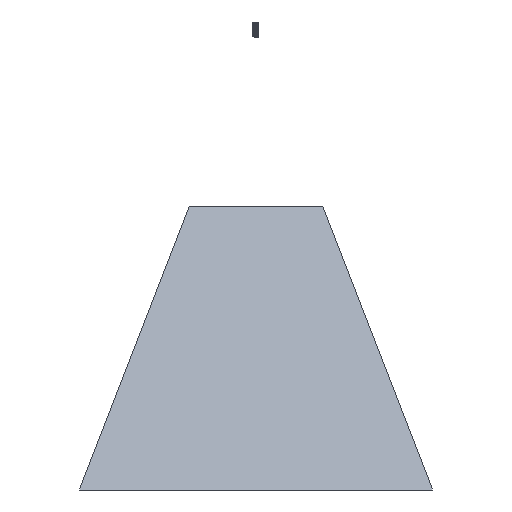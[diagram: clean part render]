
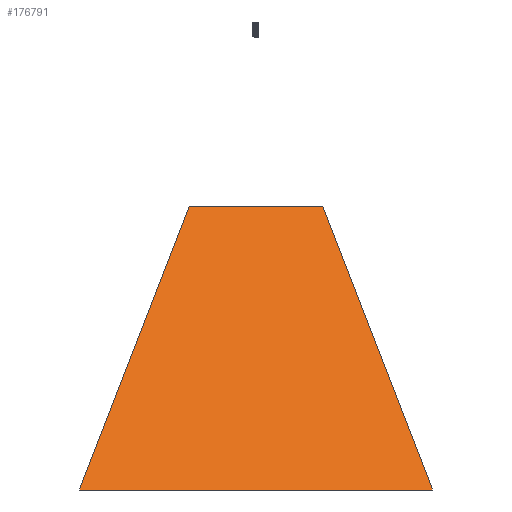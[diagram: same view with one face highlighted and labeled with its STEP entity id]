
A CAD part, left-side view. The second image highlights one B-rep face of the part: STEP entity #176791.
In plain terms, the highlighted planar face has unit normal (-0.812, 0, 0.584).
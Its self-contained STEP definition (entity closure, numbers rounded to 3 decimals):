
#156266=DIRECTION('',(0.,1.,0.));
#156267=VECTOR('',#156266,1177.267);
#156268=CARTESIAN_POINT('',(-896.939,-567.733,
-1557.743));
#156269=LINE('',#156268,#156267);
#156274=DIRECTION('',(0.557,0.3,0.775));
#156275=VECTOR('',#156274,3227.676);
#156276=CARTESIAN_POINT('',(-2694.033,-1536.416,
-4057.743));
#156277=LINE('',#156276,#156275);
#156278=DIRECTION('',(0.557,-0.3,0.775));
#156279=VECTOR('',#156278,3227.676);
#156280=CARTESIAN_POINT('',(-2694.033,1578.216,
-4057.743));
#156281=LINE('',#156280,#156279);
#156294=DIRECTION('',(0.,1.,0.));
#156295=VECTOR('',#156294,3114.631);
#156296=CARTESIAN_POINT('',(-2694.033,-1536.416,
-4057.743));
#156297=LINE('',#156296,#156295);
#159558=CARTESIAN_POINT('',(-2694.033,-1536.416,
-4057.743));
#159559=CARTESIAN_POINT('',(-2694.033,1578.216,
-4057.743));
#159560=VERTEX_POINT('',#159558);
#159561=VERTEX_POINT('',#159559);
#159566=CARTESIAN_POINT('',(-896.939,-567.733,
-1557.743));
#159567=CARTESIAN_POINT('',(-896.939,609.533,
-1557.743));
#159568=VERTEX_POINT('',#159566);
#159569=VERTEX_POINT('',#159567);
#176777=CARTESIAN_POINT('',(-2694.033,-1986.6,-4057.743));
#176778=DIRECTION('',(-0.812,0.,0.584));
#176779=DIRECTION('',(0.584,0.,0.812));
#176780=AXIS2_PLACEMENT_3D('',#176777,#176778,#176779);
#176781=PLANE('',#176780);
#176782=ORIENTED_EDGE('',*,*,#176770,.F.);
#176784=ORIENTED_EDGE('',*,*,#176783,.F.);
#176786=ORIENTED_EDGE('',*,*,#176785,.T.);
#176788=ORIENTED_EDGE('',*,*,#176787,.T.);
#176789=EDGE_LOOP('',(#176782,#176784,#176786,#176788));
#176790=FACE_OUTER_BOUND('',#176789,.F.);
#176770=EDGE_CURVE('',#159568,#159569,#156269,.T.);
#176783=EDGE_CURVE('',#159560,#159568,#156277,.T.);
#176785=EDGE_CURVE('',#159560,#159561,#156297,.T.);
#176787=EDGE_CURVE('',#159561,#159569,#156281,.T.);
#176791=ADVANCED_FACE('',(#176790),#176781,.T.);
